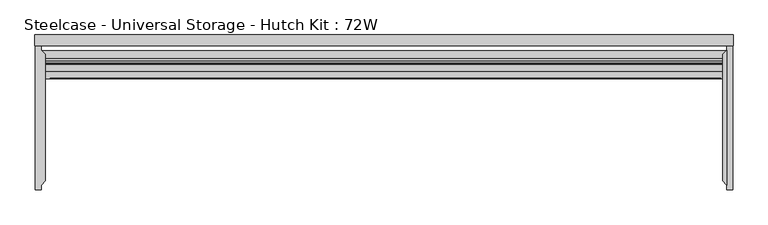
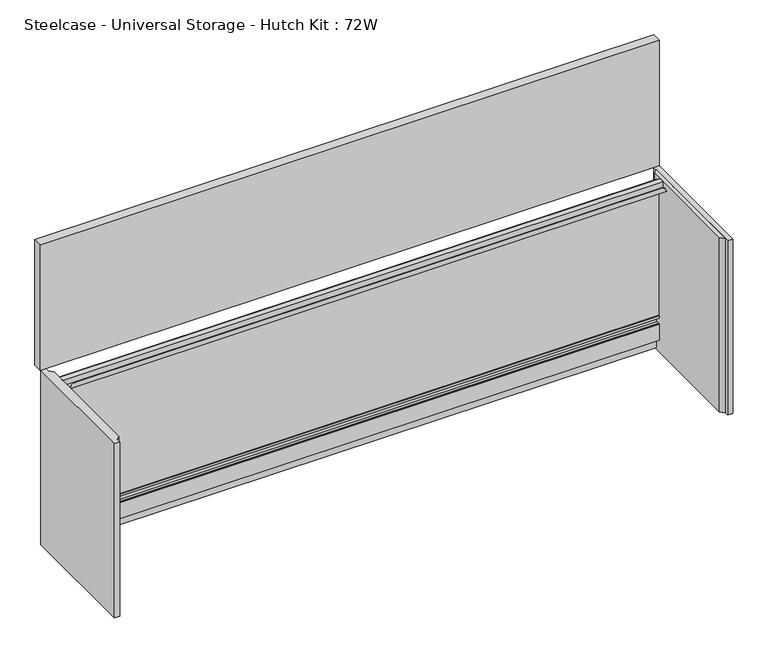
"""IFC4 building model written with IfcOpenShell, lengths in millimetres: furniture geometry, Steelcase - Universal Storage - Hutch Kit : 72W."""

from ifc_helpers import new_model, si_unit, frame, origin, place, context, project, spatial, polyline, circle_curve, outline, extrude, faceted_brep, source, transform, mapped, element, save
from ifc_brep_helpers import plane_surface, cylinder_surface, advanced_brep


def steelcase_universal_storage_hutch_kit_72w_abdd75dc(model_context):
    return source(origin(), model_context, "Body", "SolidModel", [
        extrude(outline(polyline([(1812.6202, -39.6494001), (1812.6202, -393.4459972), (1801.622, -382.447795), (1801.622, -50.6476006), (1812.6202, -39.6494001)])), frame((0.0, 0.0, 723.9), z_axis=(0.0, 0.0, 1.0), x_axis=(1.0, 0.0, 0.0)), (0.0, 0.0, 1.0), 544.8554),
        extrude(outline(polyline([(1812.6202, -27.9400006), (1827.9872, -27.9400006), (1827.9872, -405.1553842), (1812.6202, -405.1553842), (1812.6202, -27.9400006)])), frame((0.0, 0.0, 723.9), z_axis=(0.0, 0.0, 1.0), x_axis=(1.0, 0.0, 0.0)), (0.0, 0.0, 1.0), 544.8554),
        extrude(outline(polyline([(16.1798, -405.1553842), (0.8128, -405.1553842), (0.8128, -27.9400006), (16.1798, -27.9400006), (16.1798, -39.6494001), (27.178, -50.6476006), (27.178, -382.447795), (16.1798, -393.4459972), (16.1798, -405.1553842)])), frame((0.0, 0.0, 723.9), z_axis=(0.0, 0.0, 1.0), x_axis=(1.0, 0.0, 0.0)), (0.0, 0.0, 1.0), 544.8554),
        advanced_brep(
        [(1801.622, -78.4097988, 1250.975386), (1801.622, -78.4097988, 1268.7554), (1801.622, -94.7420005, 1268.7554), (1801.622, -94.7420005, 1251.8898651), (1801.622, -114.2492006, 1251.8898651), (1801.622, -114.2492006, 1250.975386), (1801.622, -93.8275986, 1250.975386), (1801.622, -93.8275986, 1267.8410717), (1801.622, -79.3242007, 1267.8410717), (1801.622, -79.3242007, 1250.975386), (27.178, -78.4097988, 1250.975386), (27.178, -79.3242007, 1250.975386), (27.178, -79.3242007, 1267.8410717), (27.178, -93.8275986, 1267.8410717), (27.178, -93.8275986, 1250.975386), (27.178, -114.2492006, 1250.975386), (27.178, -114.2492006, 1251.8898651), (27.178, -94.7420005, 1251.8898651), (27.178, -94.7420005, 1268.7554), (27.178, -78.4097988, 1268.7554), (40.5892014, -114.2492006, 1251.8898651), (40.5892014, -113.3348006, 1251.8898651), (1797.0809148, -113.3348006, 1251.8898651), (1797.0809148, -114.2492006, 1251.8898651), (1797.0809148, -114.2492006, 1256.0554636), (1788.1909148, -114.2492006, 1264.9454636), (49.4792014, -114.2492006, 1264.9454636), (40.5892014, -114.2492006, 1256.0554636), (40.5892014, -113.3348006, 1256.0554636), (49.4792014, -113.3348006, 1264.9454636), (1788.1909148, -113.3348006, 1264.9454636), (1797.0809148, -113.3348006, 1256.0554636)],
        [
            (0, 1),
            (1, 2),
            (2, 3),
            (3, 4),
            (4, 5),
            (5, 6),
            (6, 7),
            (7, 8),
            (8, 9),
            (9, 0),
            (10, 11),
            (11, 12),
            (12, 13),
            (13, 14),
            (14, 15),
            (15, 16),
            (16, 17),
            (17, 18),
            (18, 19),
            (19, 10),
            (0, 10),
            (19, 1),
            (18, 2),
            (17, 3),
            (16, 20),
            (20, 21),
            (21, 22),
            (22, 23),
            (23, 4),
            (23, 24),
            (24, 25, circle_curve(frame((1788.1909148, -114.2492006, 1256.0554636), z_axis=(0.0, -1.0, 0.0), x_axis=(1.0, 0.0, 0.0)), 8.89)),
            (25, 26),
            (26, 27, circle_curve(frame((49.4792014, -114.2492006, 1256.0554636), z_axis=(0.0, -1.0, 0.0), x_axis=(1.0, 0.0, 0.0)), 8.89)),
            (27, 20),
            (15, 5),
            (14, 6),
            (13, 7),
            (12, 8),
            (11, 9),
            (28, 29, circle_curve(frame((49.4792014, -113.3348006, 1256.0554636), z_axis=(0.0, 1.0, 0.0), x_axis=(1.0, 0.0, 0.0)), 8.89)),
            (29, 30),
            (30, 31, circle_curve(frame((1788.1909148, -113.3348006, 1256.0554636), z_axis=(0.0, 1.0, 0.0), x_axis=(1.0, 0.0, 0.0)), 8.89)),
            (31, 22),
            (21, 28),
            (27, 28),
            (31, 24),
            (30, 25),
            (29, 26),
        ],
        [
            plane_surface(frame((1801.622, -78.4097988, 1268.7554), z_axis=(1.0, 0.0, 0.0), x_axis=(0.0, 0.0, 1.0))),
            plane_surface(frame((27.178, -78.4097988, 1268.7554), z_axis=(-1.0, 0.0, 0.0), x_axis=(0.0, 0.0, -1.0))),
            plane_surface(frame((1801.622, -78.4097988, 1250.975386), z_axis=(0.0, 1.0, 0.0), x_axis=(-1.0, 0.0, 0.0))),
            plane_surface(frame((1801.622, -78.4097988, 1268.7554), z_axis=(0.0, 0.0, 1.0), x_axis=(-1.0, 0.0, 0.0))),
            plane_surface(frame((1801.622, -94.7420005, 1268.7554), z_axis=(0.0, -1.0, 0.0), x_axis=(-1.0, 0.0, 0.0))),
            plane_surface(frame((1801.622, -94.7420005, 1251.8898651), z_axis=(0.0, 0.0, 1.0), x_axis=(-1.0, 0.0, 0.0))),
            plane_surface(frame((1801.622, -114.2492006, 1251.8898651), z_axis=(0.0, -1.0, 0.0), x_axis=(-1.0, 0.0, 0.0))),
            plane_surface(frame((1801.622, -114.2492006, 1250.975386), z_axis=(0.0, 0.0, -1.0), x_axis=(-1.0, 0.0, 0.0))),
            plane_surface(frame((1801.622, -93.8275986, 1250.975386), z_axis=(0.0, 1.0, 0.0), x_axis=(-1.0, 0.0, 0.0))),
            plane_surface(frame((1801.622, -93.8275986, 1267.8410717), z_axis=(0.0, 0.0, -1.0), x_axis=(-1.0, 0.0, 0.0))),
            plane_surface(frame((1801.622, -79.3242007, 1267.8410717), z_axis=(0.0, -1.0, 0.0), x_axis=(-1.0, 0.0, 0.0))),
            plane_surface(frame((1801.622, -79.3242007, 1250.975386), z_axis=(0.0, 0.0, -1.0), x_axis=(-1.0, 0.0, 0.0))),
            plane_surface(frame((40.5892014, -113.3348006, 1251.8898651), z_axis=(0.0, 1.0, 0.0), x_axis=(0.0, 0.0, 1.0))),
            plane_surface(frame((40.5892014, -114.2492006, 1256.0554636), z_axis=(-1.0, 0.0, 0.0), x_axis=(0.0, 1.0, 0.0))),
            plane_surface(frame((1797.0809148, -114.2492006, 1251.8898651), z_axis=(1.0, 0.0, 0.0), x_axis=(0.0, 1.0, 0.0))),
            cylinder_surface(frame((1788.1909148, -113.3348006, 1256.0554636), z_axis=(0.0, -1.0, 0.0), x_axis=(1.0, 0.0, 0.0)), 8.89),
            plane_surface(frame((1788.1909148, -114.2492006, 1264.9454636), z_axis=(0.0, 0.0, 1.0), x_axis=(0.0, 1.0, 0.0))),
            cylinder_surface(frame((49.4792014, -113.3348006, 1256.0554636), z_axis=(0.0, -1.0, 0.0), x_axis=(1.0, 0.0, 0.0)), 8.89),
        ],
        [
            (0, [[1, 2, 3, 4, 5, 6, 7, 8, 9, 10]]),
            (1, [[11, 12, 13, 14, 15, 16, 17, 18, 19, 20]]),
            (2, [[-1, 21, -20, 22]]),
            (3, [[-2, -22, -19, 23]]),
            (4, [[-3, -23, -18, 24]]),
            (5, [[-4, -24, -17, 25, 26, 27, 28, 29]]),
            (6, [[-5, -29, 30, 31, 32, 33, 34, -25, -16, 35]]),
            (7, [[-6, -35, -15, 36]]),
            (8, [[-7, -36, -14, 37]]),
            (9, [[-8, -37, -13, 38]]),
            (10, [[-9, -38, -12, 39]]),
            (11, [[-10, -39, -11, -21]]),
            (12, [[40, 41, 42, 43, -27, 44]]),
            (13, [[-34, 45, -44, -26]]),
            (14, [[-30, -28, -43, 46]]),
            (15, [[-31, -46, -42, 47]]),
            (16, [[-32, -47, -41, 48]]),
            (17, [[-33, -48, -40, -45]]),
        ],
    ),
        faceted_brep([(1801.622, -60.7822002, 848.0044), (1801.622, -60.7822002, 833.8820223), (1801.622, -74.2695991, 833.8820223), (1801.622, -74.2695991, 839.215999), (1801.622, -75.7936022, 839.215999), (1801.622, -75.7936022, 831.8500242), (1801.622, -60.7652681, 831.8500242), (1801.622, -60.7652681, 808.7613899), (1801.622, -64.6684001, 808.7613899), (1801.622, -64.6684001, 812.8000242), (1801.622, -70.7136025, 812.8000242), (1801.622, -70.7136025, 806.4499758), (1801.622, -74.2695991, 806.4499758), (1801.622, -74.2695991, 812.8000242), (1801.622, -75.7936022, 812.8000242), (1801.622, -75.7936022, 762.0), (1801.622, -60.7652681, 762.0), (1801.622, -60.7652681, 730.377), (1801.622, -50.6476006, 730.377), (1801.622, -50.6476006, 848.0044), (27.178, -60.7822002, 848.0044), (27.178, -50.6476006, 848.0044), (27.178, -50.6476006, 730.377), (27.178, -60.7652681, 730.377), (27.178, -60.7652681, 762.0), (27.178, -75.7936022, 762.0), (27.178, -75.7936022, 812.8000242), (27.178, -74.2695991, 812.8000242), (27.178, -74.2695991, 806.4499758), (27.178, -70.7136025, 806.4499758), (27.178, -70.7136025, 812.8000242), (27.178, -64.6684001, 812.8000242), (27.178, -64.6684001, 808.7613899), (27.178, -60.7652681, 808.7613899), (27.178, -60.7652681, 831.8500242), (27.178, -75.7936022, 831.8500242), (27.178, -75.7936022, 839.215999), (27.178, -74.2695991, 839.215999), (27.178, -74.2695991, 833.8820223), (27.178, -60.7822002, 833.8820223), (16.1798, -50.6476006, 730.377), (16.1798, -41.1480006, 730.377), (1812.6202, -41.1480006, 730.377), (1812.6202, -50.6476006, 730.377), (1812.6202, -50.6476006, 848.0044), (1812.6202, -41.1480006, 848.0044), (16.1798, -41.1480006, 848.0044), (16.1798, -50.6476006, 848.0044)], [[[0, 1, 2, 3, 4, 5, 6, 7, 8, 9, 10, 11, 12, 13, 14, 15, 16, 17, 18, 19]], [[20, 21, 22, 23, 24, 25, 26, 27, 28, 29, 30, 31, 32, 33, 34, 35, 36, 37, 38, 39]], [[1, 0, 20, 39]], [[2, 1, 39, 38]], [[3, 2, 38, 37]], [[4, 3, 37, 36]], [[5, 4, 36, 35]], [[6, 5, 35, 34]], [[7, 6, 34, 33]], [[8, 7, 33, 32]], [[9, 8, 32, 31]], [[10, 9, 31, 30]], [[11, 10, 30, 29]], [[12, 11, 29, 28]], [[13, 12, 28, 27]], [[14, 13, 27, 26]], [[15, 14, 26, 25]], [[16, 15, 25, 24]], [[17, 16, 24, 23]], [[18, 17, 23, 22, 40, 41, 42, 43]], [[0, 19, 44, 45, 46, 47, 21, 20]], [[44, 43, 42, 45]], [[47, 46, 41, 40]], [[43, 44, 19, 18]], [[47, 40, 22, 21]], [[45, 42, 41, 46]]]),
        extrude(outline(polyline([(1801.622, -61.9759999), (1801.622, -67.5258996), (27.178, -67.5258996), (27.178, -61.9759999), (1801.622, -61.9759999)])), frame((0.0, 0.0, 833.8820223), z_axis=(0.0, 0.0, 1.0), x_axis=(1.0, 0.0, 0.0)), (0.0, 0.0, 1.0), 423.4941359),
        extrude(outline(polyline([(1801.622, -67.5258996), (1801.622, -73.0618558), (27.178, -73.0618558), (27.178, -67.5258996), (1801.622, -67.5258996)])), frame((0.0, 0.0, 833.8820223), z_axis=(0.0, 0.0, 1.0), x_axis=(1.0, 0.0, 0.0)), (0.0, 0.0, 1.0), 423.4941359),
        extrude(outline(polyline([(1828.8, 0.0), (1828.8, -27.9400006), (0.0, -27.9400006), (0.0, 0.0), (1828.8, 0.0)])), frame((0.0, 0.0, 1268.7554), z_axis=(0.0, 0.0, 1.0), x_axis=(1.0, 0.0, 0.0)), (0.0, 0.0, 1.0), 391.9220132),
    ])


if __name__ == "__main__":
    model = new_model("IFC4")
    model_context = context("Model", 3, world=origin())
    ifc_project = project(units=[si_unit("LENGTHUNIT", "METRE", prefix="MILLI")], contexts=[model_context])
    site = spatial("IfcSite", under=ifc_project)
    building = spatial("IfcBuilding", under=site)
    placement = place(None, origin())
    steelcase_universal_storage_hutch_kit_72w_shape = steelcase_universal_storage_hutch_kit_72w_abdd75dc(model_context)
    element("IfcFurniture", 1, ObjectType="Steelcase - Universal Storage - Hutch Kit : 72W", at=placement, inside=building, context=model_context, shape_type="MappedRepresentation", body=[
        mapped(steelcase_universal_storage_hutch_kit_72w_shape, transform((0.0, 0.0, 0.0), x_axis=(1.0, 0.0, 0.0), y_axis=(0.0, 1.0, 0.0), z_axis=(0.0, 0.0, 1.0))),
    ])
    save(model, "model.ifc")
